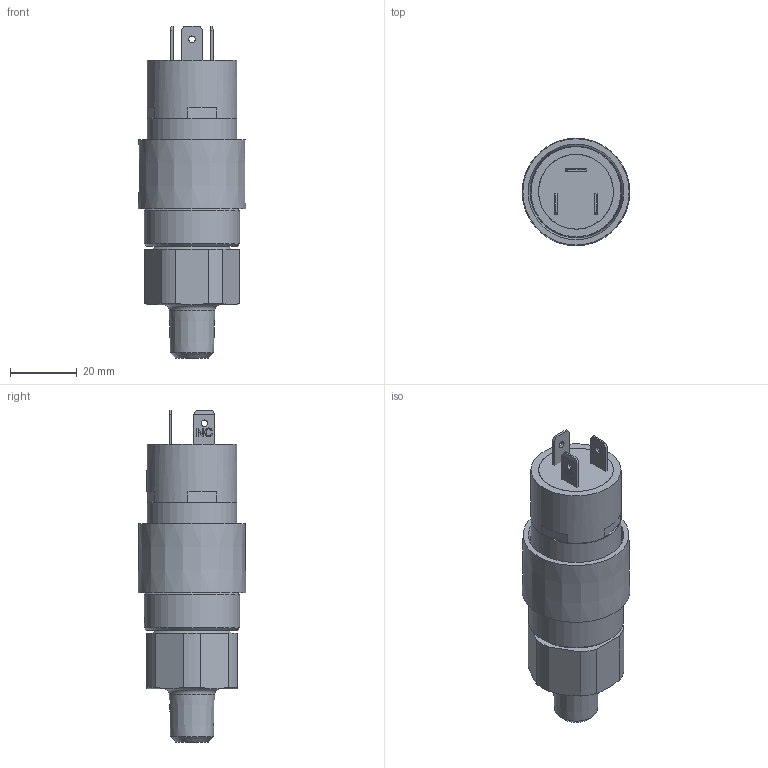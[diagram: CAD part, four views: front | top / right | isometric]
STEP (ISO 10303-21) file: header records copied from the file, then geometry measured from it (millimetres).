
FILE_DESCRIPTION (( 'STEP AP214' ), '1' );
FILE_NAME ('10-B13_B16_V5.STEP', '2025-03-04T20:53:33', ( '' ), ( '' ), 'SwSTEP 2.0', 'SolidWorks 2023', '' );
FILE_SCHEMA (( 'AUTOMOTIVE_DESIGN' ));
Length unit declared in the file: inch
Products named in the file (1): 10-B13_B16_V5
Bounding box: 32.11 x 32.11 x 99.18 mm (x, y, z)
Surface area: 14265.2 mm2 (no closed solid volume)
Topology: 0 solids, 16 shells, 97 faces, 344 edges, 262 vertices
Faces by surface type: plane 56, cone 18, cylinder 17, bspline 4, torus 2
Full cylindrical faces by diameter (mm): 0.851 x1, 1.981 x3, 3.556 x1, 22.352 x2, 26.873 x2, 26.924 x1, 28.575 x1
Entity records: 4697 total; most frequent: CARTESIAN_POINT 1974, DIRECTION 517, ORIENTED_EDGE 467, EDGE_CURVE 312, VERTEX_POINT 255, LINE 173, VECTOR 173, AXIS2_PLACEMENT_3D 172
